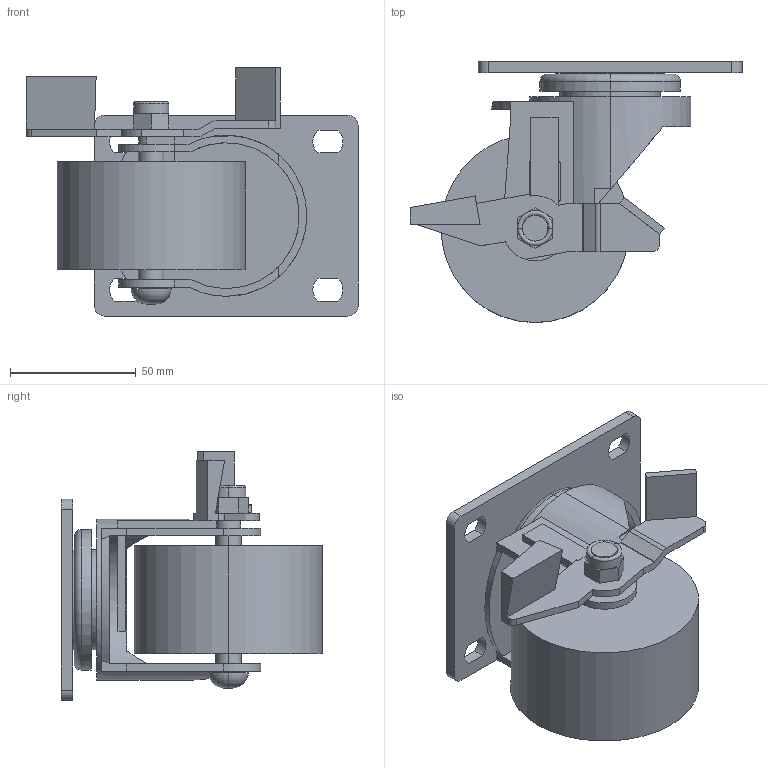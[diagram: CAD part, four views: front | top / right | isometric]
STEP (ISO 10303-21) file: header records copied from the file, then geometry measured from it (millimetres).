
FILE_DESCRIPTION (( 'STEP AP203' ), '1' );
FILE_NAME ('FN-A3203.STEP', '2015-11-18T07:25:43', ( '' ), ( '' ), 'SwSTEP 2.0', 'SolidWorks 2014', '' );
FILE_SCHEMA (( 'CONFIG_CONTROL_DESIGN' ));
Length unit declared in the file: millimetre
Products named in the file (1): FN-A3203
Bounding box: 132.25 x 104 x 98.9 mm (x, y, z)
Volume: 292838.1 mm3; surface area: 72936.4 mm2
Topology: 5 solids, 5 shells, 173 faces, 435 edges, 282 vertices
Faces by surface type: plane 106, cylinder 55, torus 8, bspline 4
Entity records: 5347 total; most frequent: CARTESIAN_POINT 1035, DIRECTION 898, ORIENTED_EDGE 870, EDGE_CURVE 435, AXIS2_PLACEMENT_3D 311, VERTEX_POINT 282, VECTOR 276, LINE 276
